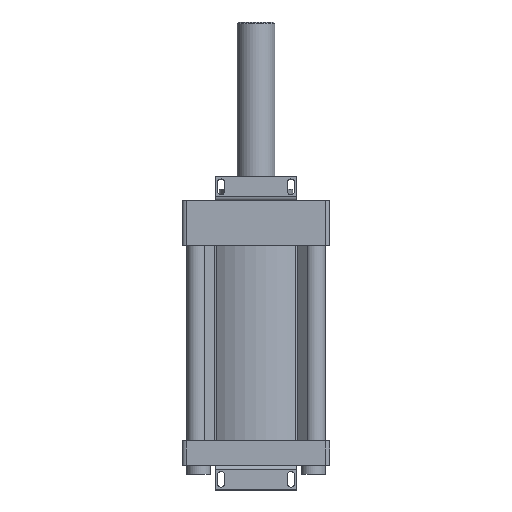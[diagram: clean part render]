
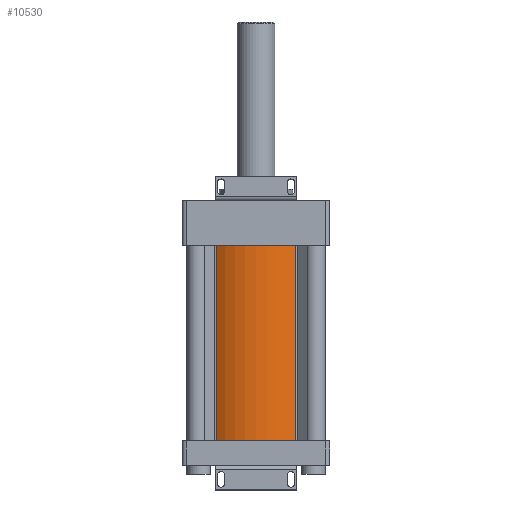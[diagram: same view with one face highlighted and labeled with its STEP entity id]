
A CAD part, front view. The second image highlights one B-rep face of the part: STEP entity #10530.
In plain terms, the highlighted cylindrical face has radius 84.25 mm (diameter 168.5 mm), a partial arc.
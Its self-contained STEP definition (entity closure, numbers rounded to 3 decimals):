
#139 = CARTESIAN_POINT ( 'NONE',  ( -48.572, -68.548, -27.5 ) ) ;
#140 = AXIS2_PLACEMENT_3D ( 'NONE', #7394, #1566, #8331 ) ;
#274 = ORIENTED_EDGE ( 'NONE', *, *, #8822, .F. ) ;
#529 = CIRCLE ( 'NONE', #11681, 84.25 ) ;
#919 = FACE_OUTER_BOUND ( 'NONE', #12514, .T. ) ;
#1215 = VECTOR ( 'NONE', #4992, 1000. ) ;
#1556 = ORIENTED_EDGE ( 'NONE', *, *, #7418, .T. ) ;
#1566 = DIRECTION ( 'NONE',  ( 0., 0., -1. ) ) ;
#1574 = EDGE_CURVE ( 'NONE', #10064, #6931, #9771, .T. ) ;
#1754 = CARTESIAN_POINT ( 'NONE',  ( -48.572, -68.548, -265.5 ) ) ;
#2015 = ORIENTED_EDGE ( 'NONE', *, *, #1574, .F. ) ;
#2422 = DIRECTION ( 'NONE',  ( 0., 0., 1. ) ) ;
#2652 = CARTESIAN_POINT ( 'NONE',  ( -0.064, 0.336, -265.5 ) ) ;
#2922 = CARTESIAN_POINT ( 'NONE',  ( -48.572, -68.548, -265.5 ) ) ;
#3664 = DIRECTION ( 'NONE',  ( -1., 0., 0. ) ) ;
#3793 = CARTESIAN_POINT ( 'NONE',  ( -0.064, 0.336, -265.5 ) ) ;
#3869 = LINE ( 'NONE', #12499, #1215 ) ;
#4172 = CARTESIAN_POINT ( 'NONE',  ( 48.445, -68.548, -265.5 ) ) ;
#4846 = VERTEX_POINT ( 'NONE', #4172 ) ;
#4992 = DIRECTION ( 'NONE',  ( 0., 0., 1. ) ) ;
#5369 = CARTESIAN_POINT ( 'NONE',  ( 48.445, -68.548, -27.5 ) ) ;
#6931 = VERTEX_POINT ( 'NONE', #139 ) ;
#7100 = EDGE_CURVE ( 'NONE', #11771, #6931, #9704, .T. ) ;
#7253 = VECTOR ( 'NONE', #2422, 1000. ) ;
#7394 = CARTESIAN_POINT ( 'NONE',  ( -0.064, 0.336, -27.5 ) ) ;
#7418 = EDGE_CURVE ( 'NONE', #4846, #11771, #3869, .T. ) ;
#8201 = ORIENTED_EDGE ( 'NONE', *, *, #7100, .T. ) ;
#8331 = DIRECTION ( 'NONE',  ( -1., 0., 0. ) ) ;
#8372 = CYLINDRICAL_SURFACE ( 'NONE', #10914, 84.25 ) ;
#8592 = DIRECTION ( 'NONE',  ( 1., 0., 0. ) ) ;
#8822 = EDGE_CURVE ( 'NONE', #4846, #10064, #529, .T. ) ;
#9385 = DIRECTION ( 'NONE',  ( 0., 0., -1. ) ) ;
#9518 = DIRECTION ( 'NONE',  ( 0., 0., 1. ) ) ;
#9704 = CIRCLE ( 'NONE', #140, 84.25 ) ;
#9771 = LINE ( 'NONE', #2922, #7253 ) ;
#10064 = VERTEX_POINT ( 'NONE', #1754 ) ;
#10530 = ADVANCED_FACE ( 'NONE', ( #919 ), #8372, .T. ) ;
#10914 = AXIS2_PLACEMENT_3D ( 'NONE', #3793, #9518, #8592 ) ;
#11681 = AXIS2_PLACEMENT_3D ( 'NONE', #2652, #9385, #3664 ) ;
#11771 = VERTEX_POINT ( 'NONE', #5369 ) ;
#12499 = CARTESIAN_POINT ( 'NONE',  ( 48.445, -68.548, -265.5 ) ) ;
#12514 = EDGE_LOOP ( 'NONE', ( #8201, #2015, #274, #1556 ) ) ;
